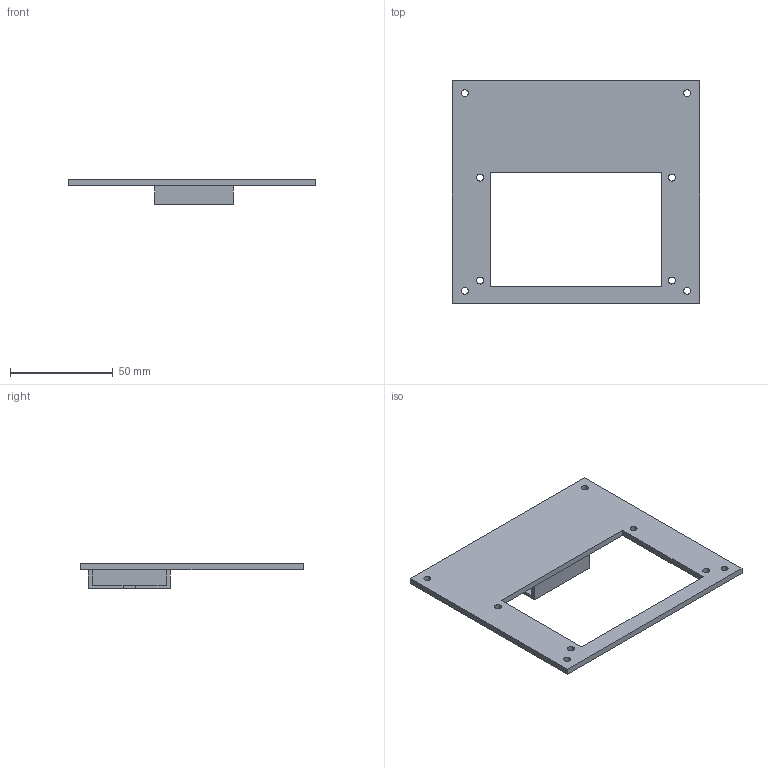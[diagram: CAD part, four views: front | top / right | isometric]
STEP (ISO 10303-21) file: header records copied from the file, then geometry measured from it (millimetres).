
FILE_DESCRIPTION(('Open CASCADE Model'),'2;1');
FILE_NAME('Open CASCADE Shape Model','2026-11-06T11:30:47',('Author'),( 'Open CASCADE'),'Open CASCADE STEP processor 7.8','Open CASCADE 7.8' ,'Unknown');
FILE_SCHEMA(('AUTOMOTIVE_DESIGN { 1 0 10303 214 1 1 1 1 }'));
Length unit declared in the file: millimetre
Products named in the file (1): Open CASCADE STEP translator 7.8 2
Bounding box: 120 x 108 x 12 mm (x, y, z)
Volume: 28585.5 mm3; surface area: 23351.7 mm2
Topology: 1 solids, 1 shells, 31 faces, 84 edges, 56 vertices
Faces by surface type: plane 23, cylinder 8
Full cylindrical faces by diameter (mm): 3.4 x8
Entity records: 2071 total; most frequent: CARTESIAN_POINT 381, DIRECTION 291, LINE 179, VECTOR 179, ORIENTED_EDGE 168, PCURVE 168, DEFINITIONAL_REPRESENTATION 168, EDGE_CURVE 84
